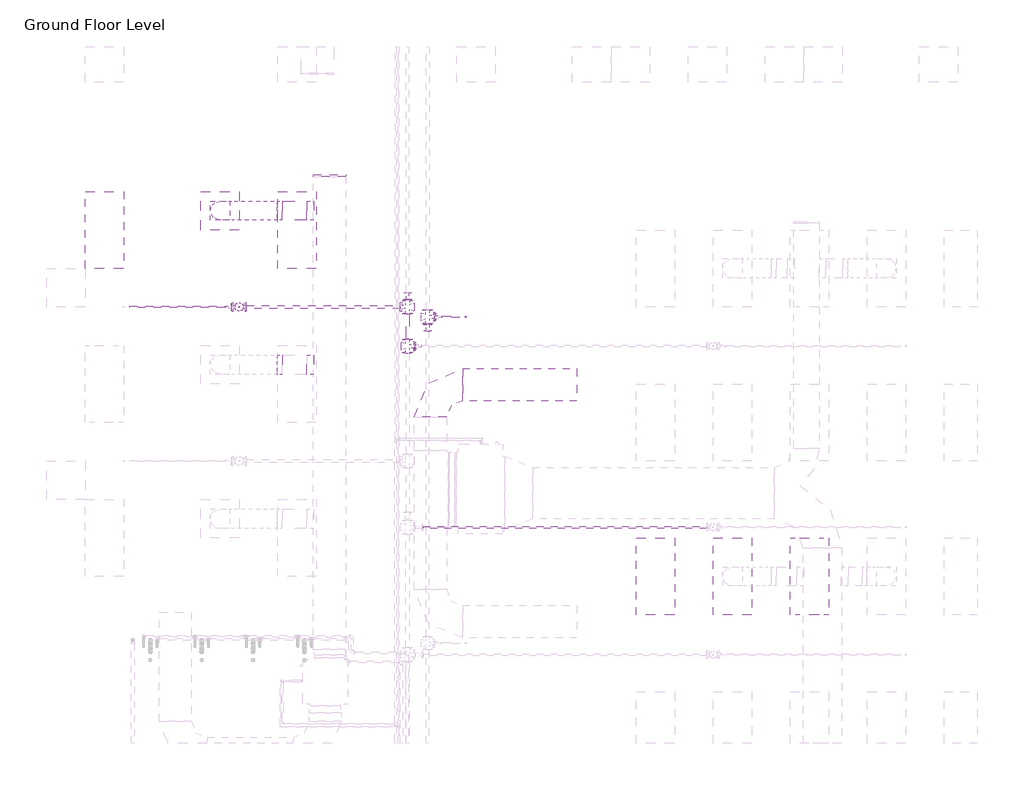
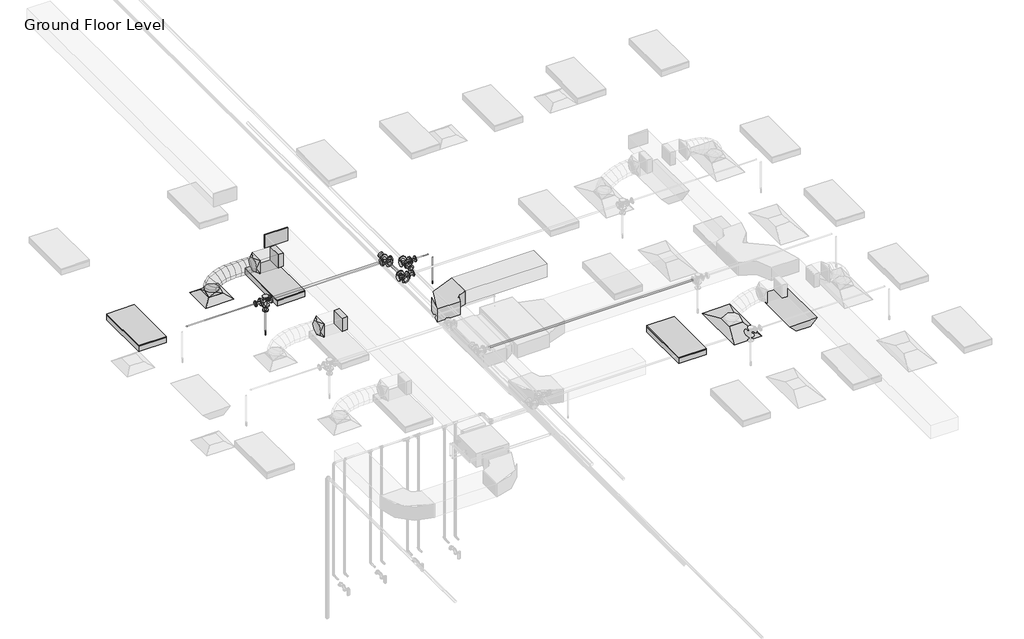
# One storey, part 27 of 75: 10 pipe fittings, 7 duct fittings, 7 pipe segments, 4 light fixtures, 3 duct segments, 2 air terminals, 2 fire suppression terminals.
"""IFC4 building model written with IfcOpenShell, lengths in millimetres."""

from ifc_helpers import new_model, si_unit, point, frame, frame_2d, origin, place, context, project, spatial, polyline, circle_curve, ellipse_curve, trimmed, segment, composite_curve, outline, extrude, transform, mapped, element, save
from ifc_brep_helpers import plane_surface, cylinder_surface, advanced_brep
from components import m_return_diffuser_1200x600_1200_x_600_face_300_x_300_d1983ef6, m_return_diffuser_600_x_600_face_300_x_300_connection_ff221211, m_rectangular_elbow_radius_1_w_abe20169, m_rectangular_endcap_standard_72d4d00d, m_rectangular_takeoff_standard_cb0ccb98, m_rectangular_to_round_transition_angle_45_degree_641efff0, m_sprinkler_dry_pendent_hosted_15_mm_dry_pendent_9bda8e11, m_sprinkler_pendent_15_mm_pendent_06fcbd8e, m_emergency_recessed_lighting_fixture_600x1200_277_5b10b25d, m_troffer_light_parabolic_rectangular1_0600x1200mm_4_lamp_86473d4a, m_reducer_flanged_cs_class_150_standard_83138b42, m_reducer_flanged_cs_class_150_standard_564df86d, m_reducer_flanged_cs_class_150_standard_8338f9e4, m_reducer_flanged_cs_class_150_standard_dc68ad9d, m_tee_round_base_flanged_cs_class_150_standard_ab36f383

model = new_model("IFC4")

# Units and contexts
model_context = context("Model", 3, world=origin())
ifc_project = project(units=[si_unit("LENGTHUNIT", "METRE", prefix="MILLI")], contexts=[model_context])

# Site, building, storey
site = spatial("IfcSite", under=ifc_project)
building = spatial("IfcBuilding", under=site)
storey = spatial("IfcBuildingStorey", under=building, Name="Ground Floor Level", Elevation=900.0)

# Air terminals
placement = place(None, origin())
m_return_diffuser_1200x600_1200_x_600_face_300_x_300_shape = m_return_diffuser_1200x600_1200_x_600_face_300_x_300_d1983ef6(model_context)
element("IfcAirTerminal", 1, ObjectType="M_Supply Diffuser 1200x600 : 1200 x 600 Face 300 x 300 Connection", at=placement, inside=storey, context=model_context, shape_type="MappedRepresentation", body=[
    mapped(m_return_diffuser_1200x600_1200_x_600_face_300_x_300_shape, transform((10743.0482736, -22864.7846466, 3650.0), x_axis=(0.0, 1.0, 0.0), y_axis=(-1.0, 0.0, 0.0), z_axis=(0.0, 0.0, 1.0))),
])
m_return_diffuser_600_x_600_face_300_x_300_connection_shape = m_return_diffuser_600_x_600_face_300_x_300_connection_ff221211(model_context)
element("IfcAirTerminal", 2, ObjectType="M_Supply Diffuser : 600 x 600 Face 300 x 300 Connection", at=placement, inside=storey, context=model_context, shape_type="MappedRepresentation", body=[
    mapped(m_return_diffuser_600_x_600_face_300_x_300_connection_shape, transform((2762.7672395, -17164.7846466, 3650.0), x_axis=(1.0, 0.0, 0.0), y_axis=(0.0, 1.0, 0.0), z_axis=(0.0, 0.0, 1.0))),
])

# Duct fittings
m_rectangular_elbow_radius_1_w_shape = m_rectangular_elbow_radius_1_w_abe20169(model_context)
element("IfcDuctFitting", 3, ObjectType="M_Rectangular Elbow - Radius : 1 W", at=placement, inside=storey, context=model_context, shape_type="MappedRepresentation", body=[
    mapped(m_rectangular_elbow_radius_1_w_shape, transform((6040.9897768, -19877.6206315, 4082.4543707), x_axis=(-1.0, 0.0, 0.0), y_axis=(0.0, -1.0, 0.0), z_axis=(0.0, 0.0, 1.0))),
])
m_rectangular_endcap_standard_shape = m_rectangular_endcap_standard_72d4d00d(model_context)
element("IfcDuctFitting", 4, ObjectType="M_Rectangular Endcap : Standard", at=placement, inside=storey, context=model_context, shape_type="MappedRepresentation", body=[
    mapped(m_rectangular_endcap_standard_shape, transform((4469.1581832, -16631.8627051, 4057.1429453), x_axis=(0.0, 0.999999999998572, -1.6899837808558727e-06), y_axis=(-1.0, 0.0, 0.0), z_axis=(0.0, 1.6899837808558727e-06, 0.999999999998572))),
])
m_rectangular_takeoff_standard_shape = m_rectangular_takeoff_standard_cb0ccb98(model_context)
element("IfcDuctFitting", 5, ObjectType="M_Rectangular Takeoff : Standard", at=placement, inside=storey, context=model_context, shape_type="MappedRepresentation", body=[
    mapped(m_rectangular_takeoff_standard_shape, transform((4219.1581832, -19564.7846466, 4057.1479019), x_axis=(-1.0, 0.0, 0.0), y_axis=(0.0, 1.0, 0.0), z_axis=(0.0, 0.0, -1.0))),
])
element("IfcDuctFitting", 6, ObjectType="M_Rectangular Takeoff : Standard", at=placement, inside=storey, context=model_context, shape_type="MappedRepresentation", body=[
    mapped(m_rectangular_takeoff_standard_shape, transform((4219.1581832, -17164.7846466, 4057.143846), x_axis=(-1.0, 0.0, 0.0), y_axis=(0.0, 1.0, 0.0), z_axis=(0.0, 0.0, -1.0))),
])
m_rectangular_to_round_transition_angle_45_degree_shape = m_rectangular_to_round_transition_angle_45_degree_641efff0(model_context)
element("IfcDuctFitting", 7, ObjectType="M_Rectangular to Round Transition - Angle : 45 Degree", at=placement, inside=storey, context=model_context, shape_type="MappedRepresentation", body=[
    mapped(m_rectangular_to_round_transition_angle_45_degree_shape, transform((2762.7672395, -17164.7846466, 3751.6), x_axis=(0.0, 0.0, 1.0), y_axis=(-1.0, 0.0, 0.0), z_axis=(0.0, -1.0, 0.0))),
])
element("IfcDuctFitting", 8, ObjectType="M_Rectangular to Round Transition - Angle : 45 Degree", at=placement, inside=storey, context=model_context, shape_type="MappedRepresentation", body=[
    mapped(m_rectangular_to_round_transition_angle_45_degree_shape, transform((3732.9593248, -17164.7846466, 4057.143846), x_axis=(-1.0, 0.0, 0.0), y_axis=(0.0, -1.0, 0.0), z_axis=(0.0, 0.0, 1.0))),
])
element("IfcDuctFitting", 9, ObjectType="M_Rectangular to Round Transition - Angle : 45 Degree", at=placement, inside=storey, context=model_context, shape_type="MappedRepresentation", body=[
    mapped(m_rectangular_to_round_transition_angle_45_degree_shape, transform((3732.9552689, -19564.7846466, 4057.1479019), x_axis=(-1.0, 0.0, 0.0), y_axis=(0.0, -1.0, 0.0), z_axis=(0.0, 0.0, 1.0))),
])

# Duct segments
element("IfcDuctSegment", 10, ObjectType="Flex - Round", at=placement, inside=storey, context=model_context, shape_type="AdvancedBrep", body=[
    advanced_brep(
    [(2912.7672395, -17164.7846466, 3826.6), (2762.7672395, -17314.7846466, 3826.6), (2612.7672395, -17164.7846466, 3826.6), (2762.7672395, -17014.7846466, 3826.6), (2912.7672395, -17164.7846466, 3832.8904054), (2762.7672395, -17314.7846466, 3856.84963), (2612.7672395, -17164.7846466, 3880.8088546), (2762.7672395, -17014.7846466, 3856.84963), (2914.0857611, -17164.7846466, 3836.9124951), (2779.5129985, -17314.7846466, 3907.9318018), (2644.940236, -17164.7846466, 3978.9511085), (2779.5129985, -17014.7846466, 3907.9318018), (2928.1333628, -17164.7846466, 3855.2232955), (2826.2863476, -17314.7846466, 3968.9000352), (2724.4393324, -17164.7846466, 4082.5767748), (2826.2863476, -17014.7846466, 3968.9000352), (2960.0749195, -17164.7846466, 3874.5762626), (2897.8913945, -17314.7846466, 4012.2845867), (2835.7078695, -17164.7846466, 4149.9929109), (2897.8913945, -17014.7846466, 4012.2845867), (3023.3474104, -17164.7846466, 3894.3960649), (2989.1322471, -17314.7846466, 4040.8653433), (2954.9170839, -17164.7846466, 4187.3346218), (2989.1322471, -17014.7846466, 4040.8653433), (3111.2188579, -17164.7846466, 3908.1627538), (3094.8130134, -17314.7846466, 4057.4221917), (3078.407169, -17164.7846466, 4206.6816296), (3094.8130134, -17014.7846466, 4057.4221917), (3215.0397402, -17164.7846466, 3914.7690234), (3209.7378012, -17314.7846466, 4064.7350186), (3204.4358622, -17164.7846466, 4214.7010137), (3209.7378012, -17014.7846466, 4064.7350186), (3327.4409955, -17164.7846466, 3915.5708367), (3328.7107184, -17314.7846466, 4065.5837107), (3329.9804412, -17164.7846466, 4215.5965847), (3328.7107184, -17014.7846466, 4065.5837107), (3442.2167216, -17164.7846466, 3912.8086677), (3446.5358728, -17314.7846466, 4062.7481548), (3450.855024, -17164.7846466, 4212.6876419), (3446.5358728, -17014.7846466, 4062.7481548), (3554.063392, -17164.7846466, 3909.0565), (3558.0173723, -17314.7846466, 4059.0082376), (3561.9713526, -17164.7846466, 4208.9599753), (3558.0173723, -17014.7846466, 4059.0082376), (3657.9593248, -17164.7846466, 3907.143846), (3657.9593248, -17014.7846466, 4057.143846), (3657.9593248, -17164.7846466, 4207.143846), (3657.9593248, -17314.7846466, 4057.143846), (3653.7223326, -17164.7846466, 3907.143846), (3655.1615998, -17314.7846466, 4057.143846), (3656.600867, -17164.7846466, 4207.143846), (3655.1615998, -17014.7846466, 4057.143846)],
    [
        (0, 1, circle_curve(frame((2762.7672395, -17164.7846466, 3826.6), z_axis=(0.0, 0.0, -1.0), x_axis=(1.0, 0.0, 0.0)), 150.0)),
        (1, 2, circle_curve(frame((2762.7672395, -17164.7846466, 3826.6), z_axis=(0.0, 0.0, -1.0), x_axis=(1.0, 0.0, 0.0)), 150.0)),
        (2, 3, circle_curve(frame((2762.7672395, -17164.7846466, 3826.6), z_axis=(0.0, 0.0, -1.0), x_axis=(1.0, 0.0, 0.0)), 150.0)),
        (3, 0, circle_curve(frame((2762.7672395, -17164.7846466, 3826.6), z_axis=(0.0, 0.0, -1.0), x_axis=(1.0, 0.0, 0.0)), 150.0)),
        (0, 4),
        (4, 5, ellipse_curve(frame((2762.7672395, -17164.7846466, 3856.84963), z_axis=(-0.1577287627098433, 0.0, -0.9874824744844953), x_axis=(0.9874824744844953, 0.0, -0.15772876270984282)), 151.90143, 150.0)),
        (5, 1),
        (5, 6, ellipse_curve(frame((2762.7672395, -17164.7846466, 3856.84963), z_axis=(-0.1577287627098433, 0.0, -0.9874824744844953), x_axis=(0.9874824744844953, 0.0, -0.15772876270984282)), 151.90143, 150.0)),
        (6, 2),
        (6, 7, ellipse_curve(frame((2762.7672395, -17164.7846466, 3856.84963), z_axis=(-0.1577287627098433, 0.0, -0.9874824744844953), x_axis=(0.9874824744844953, 0.0, -0.15772876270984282)), 151.90143, 150.0)),
        (7, 3),
        (7, 4, ellipse_curve(frame((2762.7672395, -17164.7846466, 3856.84963), z_axis=(-0.1577287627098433, 0.0, -0.9874824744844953), x_axis=(0.9874824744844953, 0.0, -0.15772876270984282)), 151.90143, 150.0)),
        (4, 8),
        (8, 9, ellipse_curve(frame((2779.5129985, -17164.7846466, 3907.9318018), z_axis=(-0.4667318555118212, 0.0, -0.8843988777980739), x_axis=(0.8843988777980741, 0.0, -0.4667318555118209)), 152.162973, 150.0)),
        (9, 5),
        (9, 10, ellipse_curve(frame((2779.5129985, -17164.7846466, 3907.9318018), z_axis=(-0.4667318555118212, 0.0, -0.8843988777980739), x_axis=(0.8843988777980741, 0.0, -0.4667318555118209)), 152.162973, 150.0)),
        (10, 6),
        (10, 11, ellipse_curve(frame((2779.5129985, -17164.7846466, 3907.9318018), z_axis=(-0.4667318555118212, 0.0, -0.8843988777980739), x_axis=(0.8843988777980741, 0.0, -0.4667318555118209)), 152.162973, 150.0)),
        (11, 7),
        (11, 8, ellipse_curve(frame((2779.5129985, -17164.7846466, 3907.9318018), z_axis=(-0.4667318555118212, 0.0, -0.8843988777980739), x_axis=(0.8843988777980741, 0.0, -0.4667318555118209)), 152.162973, 150.0)),
        (8, 12),
        (12, 13, ellipse_curve(frame((2826.2863476, -17164.7846466, 3968.9000352), z_axis=(-0.7447975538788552, 0.0, -0.6672904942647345), x_axis=(0.667290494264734, 0.0, -0.7447975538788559)), 152.6277027, 150.0)),
        (13, 9),
        (13, 14, ellipse_curve(frame((2826.2863476, -17164.7846466, 3968.9000352), z_axis=(-0.7447975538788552, 0.0, -0.6672904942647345), x_axis=(0.667290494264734, 0.0, -0.7447975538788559)), 152.6277027, 150.0)),
        (14, 10),
        (14, 15, ellipse_curve(frame((2826.2863476, -17164.7846466, 3968.9000352), z_axis=(-0.7447975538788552, 0.0, -0.6672904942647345), x_axis=(0.667290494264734, 0.0, -0.7447975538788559)), 152.6277027, 150.0)),
        (15, 11),
        (15, 12, ellipse_curve(frame((2826.2863476, -17164.7846466, 3968.9000352), z_axis=(-0.7447975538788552, 0.0, -0.6672904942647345), x_axis=(0.667290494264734, 0.0, -0.7447975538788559)), 152.6277027, 150.0)),
        (12, 16),
        (16, 17, ellipse_curve(frame((2897.8913945, -17164.7846466, 4012.2845867), z_axis=(-0.9113887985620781, 0.0, -0.41154642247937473), x_axis=(0.41154642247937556, 0.0, -0.9113887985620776)), 151.0972314, 150.0)),
        (17, 13),
        (17, 18, ellipse_curve(frame((2897.8913945, -17164.7846466, 4012.2845867), z_axis=(-0.9113887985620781, 0.0, -0.41154642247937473), x_axis=(0.41154642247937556, 0.0, -0.9113887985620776)), 151.0972314, 150.0)),
        (18, 14),
        (18, 19, ellipse_curve(frame((2897.8913945, -17164.7846466, 4012.2845867), z_axis=(-0.9113887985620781, 0.0, -0.41154642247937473), x_axis=(0.41154642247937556, 0.0, -0.9113887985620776)), 151.0972314, 150.0)),
        (19, 15),
        (19, 16, ellipse_curve(frame((2897.8913945, -17164.7846466, 4012.2845867), z_axis=(-0.9113887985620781, 0.0, -0.41154642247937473), x_axis=(0.41154642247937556, 0.0, -0.9113887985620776)), 151.0972314, 150.0)),
        (16, 20),
        (20, 21, ellipse_curve(frame((2989.1322471, -17164.7846466, 4040.8653433), z_axis=(-0.9737838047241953, 0.0, -0.2274754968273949), x_axis=(0.22747549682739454, 0.0, -0.9737838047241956)), 150.4125225, 150.0)),
        (21, 17),
        (21, 22, ellipse_curve(frame((2989.1322471, -17164.7846466, 4040.8653433), z_axis=(-0.9737838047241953, 0.0, -0.2274754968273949), x_axis=(0.22747549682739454, 0.0, -0.9737838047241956)), 150.4125225, 150.0)),
        (22, 18),
        (22, 23, ellipse_curve(frame((2989.1322471, -17164.7846466, 4040.8653433), z_axis=(-0.9737838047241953, 0.0, -0.2274754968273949), x_axis=(0.22747549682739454, 0.0, -0.9737838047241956)), 150.4125225, 150.0)),
        (23, 19),
        (23, 20, ellipse_curve(frame((2989.1322471, -17164.7846466, 4040.8653433), z_axis=(-0.9737838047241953, 0.0, -0.2274754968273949), x_axis=(0.22747549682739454, 0.0, -0.9737838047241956)), 150.4125225, 150.0)),
        (20, 24),
        (24, 25, ellipse_curve(frame((3094.8130134, -17164.7846466, 4057.4221917), z_axis=(-0.9940135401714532, 0.0, -0.10925695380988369), x_axis=(0.1092569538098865, 0.0, -0.9940135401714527)), 150.1583549, 150.0)),
        (25, 21),
        (25, 26, ellipse_curve(frame((3094.8130134, -17164.7846466, 4057.4221917), z_axis=(-0.9940135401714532, 0.0, -0.10925695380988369), x_axis=(0.1092569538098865, 0.0, -0.9940135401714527)), 150.1583549, 150.0)),
        (26, 22),
        (26, 27, ellipse_curve(frame((3094.8130134, -17164.7846466, 4057.4221917), z_axis=(-0.9940135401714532, 0.0, -0.10925695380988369), x_axis=(0.1092569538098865, 0.0, -0.9940135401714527)), 150.1583549, 150.0)),
        (27, 23),
        (27, 24, ellipse_curve(frame((3094.8130134, -17164.7846466, 4057.4221917), z_axis=(-0.9940135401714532, 0.0, -0.10925695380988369), x_axis=(0.1092569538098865, 0.0, -0.9940135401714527)), 150.1583549, 150.0)),
        (24, 28),
        (28, 29, ellipse_curve(frame((3209.7378012, -17164.7846466, 4064.7350186), z_axis=(-0.999375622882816, 0.0, -0.035332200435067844), x_axis=(0.035332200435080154, 0.0, -0.9993756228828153)), 150.059689, 150.0)),
        (29, 25),
        (29, 30, ellipse_curve(frame((3209.7378012, -17164.7846466, 4064.7350186), z_axis=(-0.999375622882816, 0.0, -0.035332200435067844), x_axis=(0.035332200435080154, 0.0, -0.9993756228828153)), 150.059689, 150.0)),
        (30, 26),
        (30, 31, ellipse_curve(frame((3209.7378012, -17164.7846466, 4064.7350186), z_axis=(-0.999375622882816, 0.0, -0.035332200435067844), x_axis=(0.035332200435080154, 0.0, -0.9993756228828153)), 150.059689, 150.0)),
        (31, 27),
        (31, 28, ellipse_curve(frame((3209.7378012, -17164.7846466, 4064.7350186), z_axis=(-0.999375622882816, 0.0, -0.035332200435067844), x_axis=(0.035332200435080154, 0.0, -0.9993756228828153)), 150.059689, 150.0)),
        (28, 32),
        (32, 33, ellipse_curve(frame((3328.7107184, -17164.7846466, 4065.5837107), z_axis=(-0.9999641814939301, 0.0, 0.008463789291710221), x_axis=(-0.00846378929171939, 0.0, -0.9999641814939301)), 150.0182474, 150.0)),
        (33, 29),
        (33, 34, ellipse_curve(frame((3328.7107184, -17164.7846466, 4065.5837107), z_axis=(-0.9999641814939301, 0.0, 0.008463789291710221), x_axis=(-0.00846378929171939, 0.0, -0.9999641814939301)), 150.0182474, 150.0)),
        (34, 30),
        (34, 35, ellipse_curve(frame((3328.7107184, -17164.7846466, 4065.5837107), z_axis=(-0.9999641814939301, 0.0, 0.008463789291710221), x_axis=(-0.00846378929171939, 0.0, -0.9999641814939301)), 150.0182474, 150.0)),
        (35, 31),
        (35, 32, ellipse_curve(frame((3328.7107184, -17164.7846466, 4065.5837107), z_axis=(-0.9999641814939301, 0.0, 0.008463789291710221), x_axis=(-0.00846378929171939, 0.0, -0.9999641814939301)), 150.0182474, 150.0)),
        (32, 36),
        (36, 37, ellipse_curve(frame((3446.5358728, -17164.7846466, 4062.7481548), z_axis=(-0.9995853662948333, 0.0, 0.02879401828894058), x_axis=(-0.028794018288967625, -3.989114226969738e-12, -0.9995853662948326)), 150.0016828, 150.0)),
        (37, 33),
        (37, 38, ellipse_curve(frame((3446.5358728, -17164.7846466, 4062.7481548), z_axis=(-0.9995853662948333, 0.0, 0.02879401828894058), x_axis=(-0.028794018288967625, -3.989114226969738e-12, -0.9995853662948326)), 150.0016828, 150.0)),
        (38, 34),
        (38, 39, ellipse_curve(frame((3446.5358728, -17164.7846466, 4062.7481548), z_axis=(-0.9995853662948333, 0.0, 0.02879401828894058), x_axis=(-0.028794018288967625, -3.989114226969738e-12, -0.9995853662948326)), 150.0016828, 150.0)),
        (39, 35),
        (39, 36, ellipse_curve(frame((3446.5358728, -17164.7846466, 4062.7481548), z_axis=(-0.9995853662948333, 0.0, 0.02879401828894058), x_axis=(-0.028794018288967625, -3.989114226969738e-12, -0.9995853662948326)), 150.0016828, 150.0)),
        (36, 40),
        (40, 41, ellipse_curve(frame((3558.0173723, -17164.7846466, 4059.0082376), z_axis=(-0.9996525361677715, 0.0, 0.026359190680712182), x_axis=(0.026359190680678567, 1.3534899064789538e-12, 0.9996525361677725)), 150.0038586, 150.0)),
        (41, 37),
        (41, 42, ellipse_curve(frame((3558.0173723, -17164.7846466, 4059.0082376), z_axis=(-0.9996525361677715, 0.0, 0.026359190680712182), x_axis=(0.026359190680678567, 1.3534899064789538e-12, 0.9996525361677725)), 150.0038586, 150.0)),
        (42, 38),
        (42, 43, ellipse_curve(frame((3558.0173723, -17164.7846466, 4059.0082376), z_axis=(-0.9996525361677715, 0.0, 0.026359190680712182), x_axis=(0.026359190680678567, 1.3534899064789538e-12, 0.9996525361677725)), 150.0038586, 150.0)),
        (43, 39),
        (43, 40, ellipse_curve(frame((3558.0173723, -17164.7846466, 4059.0082376), z_axis=(-0.9996525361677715, 0.0, 0.026359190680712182), x_axis=(0.026359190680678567, 1.3534899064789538e-12, 0.9996525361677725)), 150.0038586, 150.0)),
        (44, 45, circle_curve(frame((3657.9593248, -17164.7846466, 4057.143846), z_axis=(1.0, 0.0, 0.0), x_axis=(0.0, 0.0, -1.0)), 150.0)),
        (45, 46, circle_curve(frame((3657.9593248, -17164.7846466, 4057.143846), z_axis=(1.0, 0.0, 0.0), x_axis=(0.0, 0.0, -1.0)), 150.0)),
        (46, 47, circle_curve(frame((3657.9593248, -17164.7846466, 4057.143846), z_axis=(1.0, 0.0, 0.0), x_axis=(0.0, 0.0, -1.0)), 150.0)),
        (47, 44, circle_curve(frame((3657.9593248, -17164.7846466, 4057.143846), z_axis=(1.0, 0.0, 0.0), x_axis=(0.0, 0.0, -1.0)), 150.0)),
        (40, 48),
        (48, 49, ellipse_curve(frame((3655.1615998, -17164.7846466, 4057.143846), z_axis=(-0.999953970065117, 0.0, 0.009594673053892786), x_axis=(0.00959467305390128, 0.0, 0.999953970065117)), 150.0069048, 150.0)),
        (49, 41),
        (49, 50, ellipse_curve(frame((3655.1615998, -17164.7846466, 4057.143846), z_axis=(-0.999953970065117, 0.0, 0.009594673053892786), x_axis=(0.00959467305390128, 0.0, 0.999953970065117)), 150.0069048, 150.0)),
        (50, 42),
        (50, 51, ellipse_curve(frame((3655.1615998, -17164.7846466, 4057.143846), z_axis=(-0.999953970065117, 0.0, 0.009594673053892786), x_axis=(0.00959467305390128, 0.0, 0.999953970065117)), 150.0069048, 150.0)),
        (51, 43),
        (51, 48, ellipse_curve(frame((3655.1615998, -17164.7846466, 4057.143846), z_axis=(-0.999953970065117, 0.0, 0.009594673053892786), x_axis=(0.00959467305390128, 0.0, 0.999953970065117)), 150.0069048, 150.0)),
        (48, 44),
        (47, 49),
        (46, 50),
        (45, 51),
    ],
    [
        plane_surface(frame((2762.7672395, -17314.7846466, 3826.6), z_axis=(0.0, 0.0, -1.0), x_axis=(1.0, 0.0, 0.0))),
        cylinder_surface(frame((2762.7672395, -17164.7846466, 3826.6), z_axis=(0.0, 0.0, -1.0), x_axis=(1.0, 0.0, 0.0)), 150.0),
        cylinder_surface(frame((2762.7672395, -17164.7846466, 3856.84963), z_axis=(-0.3115087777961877, 0.0, -0.9502432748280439), x_axis=(0.9502432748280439, 0.0, -0.3115087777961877)), 150.0),
        cylinder_surface(frame((2779.5129985, -17164.7846466, 3907.9318018), z_axis=(-0.6086858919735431, 0.0, -0.7934112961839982), x_axis=(0.7934112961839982, 0.0, -0.6086858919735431)), 150.0),
        cylinder_surface(frame((2826.2863476, -17164.7846466, 3968.9000352), z_axis=(-0.8552637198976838, 0.0, -0.5181929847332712), x_axis=(0.5181929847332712, 0.0, -0.8552637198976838)), 150.0),
        cylinder_surface(frame((2897.8913945, -17164.7846466, 4012.2845867), z_axis=(-0.9542773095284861, 0.0, -0.2989227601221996), x_axis=(0.2989227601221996, 0.0, -0.9542773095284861)), 150.0),
        cylinder_surface(frame((2989.1322471, -17164.7846466, 4040.8653433), z_axis=(-0.9879488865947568, 0.0, -0.15478048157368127), x_axis=(0.15478048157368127, 0.0, -0.9879488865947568)), 150.0),
        cylinder_surface(frame((3094.8130134, -17164.7846466, 4057.4221917), z_axis=(-0.9979816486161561, 0.0, -0.06350298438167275), x_axis=(0.06350298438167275, 0.0, -0.9979816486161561)), 150.0),
        cylinder_surface(frame((3209.7378012, -17164.7846466, 4064.7350186), z_axis=(-0.9999745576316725, 0.0, -0.007133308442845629), x_axis=(0.007133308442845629, 0.0, -0.9999745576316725)), 150.0),
        cylinder_surface(frame((3328.7107184, -17164.7846466, 4065.5837107), z_axis=(-0.9997105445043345, 0.0, 0.024058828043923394), x_axis=(-0.024058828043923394, 0.0, -0.9997105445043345)), 150.0),
        cylinder_surface(frame((3446.5358728, -17164.7846466, 4062.7481548), z_axis=(-0.9994377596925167, 0.0, 0.03352856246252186), x_axis=(-0.03352856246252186, 0.0, -0.9994377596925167)), 150.0),
        plane_surface(frame((3657.9593248, -17164.7846466, 3907.143846), z_axis=(1.0, 0.0, 0.0), x_axis=(0.0, 1.0, 0.0))),
        cylinder_surface(frame((3558.0173723, -17164.7846466, 4059.0082376), z_axis=(-0.9998158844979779, 0.0, 0.019188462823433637), x_axis=(-0.019188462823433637, 0.0, -0.9998158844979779)), 150.0),
        cylinder_surface(frame((3655.1615998, -17164.7846466, 4057.143846), z_axis=(-1.0, 0.0, 0.0), x_axis=(0.0, 0.0, -1.0)), 150.0),
    ],
    [
        (0, [[1, 2, 3, 4]]),
        (1, [[-1, 5, 6, 7]]),
        (1, [[-2, -7, 8, 9]]),
        (1, [[-3, -9, 10, 11]]),
        (1, [[-4, -11, 12, -5]]),
        (2, [[-6, 13, 14, 15]]),
        (2, [[-8, -15, 16, 17]]),
        (2, [[-10, -17, 18, 19]]),
        (2, [[-12, -19, 20, -13]]),
        (3, [[-14, 21, 22, 23]]),
        (3, [[-16, -23, 24, 25]]),
        (3, [[-18, -25, 26, 27]]),
        (3, [[-20, -27, 28, -21]]),
        (4, [[-22, 29, 30, 31]]),
        (4, [[-24, -31, 32, 33]]),
        (4, [[-26, -33, 34, 35]]),
        (4, [[-28, -35, 36, -29]]),
        (5, [[-30, 37, 38, 39]]),
        (5, [[-32, -39, 40, 41]]),
        (5, [[-34, -41, 42, 43]]),
        (5, [[-36, -43, 44, -37]]),
        (6, [[-38, 45, 46, 47]]),
        (6, [[-40, -47, 48, 49]]),
        (6, [[-42, -49, 50, 51]]),
        (6, [[-44, -51, 52, -45]]),
        (7, [[-46, 53, 54, 55]]),
        (7, [[-48, -55, 56, 57]]),
        (7, [[-50, -57, 58, 59]]),
        (7, [[-52, -59, 60, -53]]),
        (8, [[-54, 61, 62, 63]]),
        (8, [[-56, -63, 64, 65]]),
        (8, [[-58, -65, 66, 67]]),
        (8, [[-60, -67, 68, -61]]),
        (9, [[-62, 69, 70, 71]]),
        (9, [[-64, -71, 72, 73]]),
        (9, [[-66, -73, 74, 75]]),
        (9, [[-68, -75, 76, -69]]),
        (10, [[-70, 77, 78, 79]]),
        (10, [[-72, -79, 80, 81]]),
        (10, [[-74, -81, 82, 83]]),
        (10, [[-76, -83, 84, -77]]),
        (11, [[85, 86, 87, 88]]),
        (12, [[-78, 89, 90, 91]]),
        (12, [[-80, -91, 92, 93]]),
        (12, [[-82, -93, 94, 95]]),
        (12, [[-84, -95, 96, -89]]),
        (13, [[-90, 97, -88, 98]]),
        (13, [[-92, -98, -87, 99]]),
        (13, [[-94, -99, -86, 100]]),
        (13, [[-96, -100, -85, -97]]),
    ],
),
])
element("IfcDuctSegment", 11, ObjectType="Radius Elbows / Taps", at=placement, inside=storey, context=model_context, shape_type="SweptSolid", body=[
    extrude(outline(polyline([(6540.9897768, -20127.6206315), (6540.9897768, -19627.6206315), (8320.9897766, -19627.6206315), (8320.9897766, -20127.6206315), (6540.9897768, -20127.6206315)])), frame((0.0, 0.0, 3932.4543707), z_axis=(0.0, 0.0, 1.0), x_axis=(1.0, 0.0, 0.0)), (0.0, 0.0, 1.0), 300.0),
])
element("IfcDuctSegment", 12, ObjectType="Radius Elbows / Taps", at=placement, inside=storey, context=model_context, shape_type="SweptSolid", body=[
    extrude(outline(polyline([(4117.5581832, -17014.7846466), (4117.5581832, -17314.7846466), (3732.9593248, -17314.7846466), (3732.9593248, -17014.7846466), (4117.5581832, -17014.7846466)])), frame((0.0, 0.0, 3907.143846), z_axis=(0.0, 0.0, 1.0), x_axis=(1.0, 0.0, 0.0)), (0.0, 0.0, 1.0), 300.0),
])

# Fire suppression terminals
m_sprinkler_dry_pendent_hosted_15_mm_dry_pendent_shape = m_sprinkler_dry_pendent_hosted_15_mm_dry_pendent_9bda8e11(model_context)
element("IfcFireSuppressionTerminal", 13, ObjectType="M_Sprinkler - Dry - Pendent - Hosted : 15 mm Dry Pendent", at=placement, inside=storey, context=model_context, shape_type="MappedRepresentation", body=[
    mapped(m_sprinkler_dry_pendent_hosted_15_mm_dry_pendent_shape, transform((3062.7672395, -18664.7846466, 3650.0), x_axis=(1.0, 0.0, 0.0), y_axis=(0.0, -1.0, 0.0), z_axis=(0.0, 0.0, -1.0))),
])
m_sprinkler_pendent_15_mm_pendent_shape = m_sprinkler_pendent_15_mm_pendent_06fcbd8e(model_context)
element("IfcFireSuppressionTerminal", 14, ObjectType="M_Sprinkler - Pendent : 15 mm Pendent", at=placement, inside=storey, context=model_context, shape_type="MappedRepresentation", body=[
    mapped(m_sprinkler_pendent_15_mm_pendent_shape, transform((6592.5481019, -18818.869914, 3650.0), x_axis=(1.0, 0.0, 0.0), y_axis=(0.0, 1.0, 0.0), z_axis=(0.0, 0.0, 1.0))),
])

# Light fixtures
m_emergency_recessed_lighting_fixture_600x1200_277_shape = m_emergency_recessed_lighting_fixture_600x1200_277_5b10b25d(model_context)
element("IfcLightFixture", 15, ObjectType="M_Emergency Recessed Lighting Fixture : 600x1200 - 277", at=placement, inside=storey, context=model_context, shape_type="MappedRepresentation", body=[
    mapped(m_emergency_recessed_lighting_fixture_600x1200_277_shape, transform((11643.0482736, -23464.7846466, 3650.0), x_axis=(0.0, 1.0, 0.0), y_axis=(-1.0, 0.0, 0.0), z_axis=(0.0, 0.0, 1.0))),
])
m_troffer_light_parabolic_rectangular1_0600x1200mm_4_lamp_shape = m_troffer_light_parabolic_rectangular1_0600x1200mm_4_lamp_86473d4a(model_context)
element("IfcLightFixture", 16, ObjectType="M_Troffer Light - Parabolic Rectangular1 : 0600x1200mm(4 Lamp) - 277V 2", at=placement, inside=storey, context=model_context, shape_type="MappedRepresentation", body=[
    mapped(m_troffer_light_parabolic_rectangular1_0600x1200mm_4_lamp_shape, transform((903.3013074, -17446.081145, 3650.0), x_axis=(0.0, 1.0, 0.0), y_axis=(-1.0, 0.0, 0.0), z_axis=(0.0, 0.0, 1.0))),
])
element("IfcLightFixture", 17, ObjectType="M_Troffer Light - Parabolic Rectangular1 : 0600x1200mm(4 Lamp) - 277V 2", at=placement, inside=storey, context=model_context, shape_type="MappedRepresentation", body=[
    mapped(m_troffer_light_parabolic_rectangular1_0600x1200mm_4_lamp_shape, transform((3903.3013074, -17446.081145, 3650.0), x_axis=(0.0, 1.0, 0.0), y_axis=(-1.0, 0.0, 0.0), z_axis=(0.0, 0.0, 1.0))),
])
element("IfcLightFixture", 18, ObjectType="M_Troffer Light - Parabolic Rectangular1 : 0600x1200mm(4 Lamp) - 277V 2", at=placement, inside=storey, context=model_context, shape_type="MappedRepresentation", body=[
    mapped(m_troffer_light_parabolic_rectangular1_0600x1200mm_4_lamp_shape, transform((9483.5823415, -22846.081145, 3650.0), x_axis=(0.0, 1.0, 0.0), y_axis=(-1.0, 0.0, 0.0), z_axis=(0.0, 0.0, 1.0))),
])

# Pipe fittings
m_reducer_flanged_cs_class_150_standard_shape = m_reducer_flanged_cs_class_150_standard_83138b42(model_context)
element("IfcPipeFitting", 19, ObjectType="M_Reducer - Flanged - CS - Class 150 : Standard", at=placement, inside=storey, context=model_context, shape_type="MappedRepresentation", body=[
    mapped(m_reducer_flanged_cs_class_150_standard_shape, transform((6109.3164057, -18818.869914, 4291.2754753), x_axis=(1.0, 0.0, 0.0), y_axis=(0.0, 0.0, -1.0), z_axis=(0.0, 1.0, 0.0))),
])
m_reducer_flanged_cs_class_150_standard_2_shape = m_reducer_flanged_cs_class_150_standard_564df86d(model_context)
element("IfcPipeFitting", 20, ObjectType="M_Reducer - Flanged - CS - Class 150 : Standard", at=placement, inside=storey, context=model_context, shape_type="MappedRepresentation", body=[
    mapped(m_reducer_flanged_cs_class_150_standard_2_shape, transform((5997.057812, -18931.1285077, 4291.0943441), x_axis=(0.0, -1.0, 0.0), y_axis=(1.0, 0.0, 0.0), z_axis=(0.0, 0.0, 1.0))),
])
element("IfcPipeFitting", 21, ObjectType="M_Reducer - Flanged - CS - Class 150 : Standard", at=placement, inside=storey, context=model_context, shape_type="MappedRepresentation", body=[
    mapped(m_reducer_flanged_cs_class_150_standard_2_shape, transform((5684.6174894, -18552.5260529, 4347.5), x_axis=(0.0, 1.0, 0.0), y_axis=(-1.0, 0.0, 0.0), z_axis=(0.0, 0.0, 1.0))),
])
m_reducer_flanged_cs_class_150_standard_3_shape = m_reducer_flanged_cs_class_150_standard_8338f9e4(model_context)
element("IfcPipeFitting", 22, ObjectType="M_Reducer - Flanged - CS - Class 150 : Standard", at=placement, inside=storey, context=model_context, shape_type="MappedRepresentation", body=[
    mapped(m_reducer_flanged_cs_class_150_standard_3_shape, transform((5796.8760832, -19275.8856124, 4347.5), x_axis=(1.0, 0.0, 0.0), y_axis=(0.0, 0.0, 1.0), z_axis=(0.0, -1.0, 0.0))),
])
m_reducer_flanged_cs_class_150_standard_4_shape = m_reducer_flanged_cs_class_150_standard_dc68ad9d(model_context)
element("IfcPipeFitting", 23, ObjectType="M_Reducer - Flanged - CS - Class 150 : Standard", at=placement, inside=storey, context=model_context, shape_type="MappedRepresentation", body=[
    mapped(m_reducer_flanged_cs_class_150_standard_4_shape, transform((2950.5086457, -18664.7846466, 4347.5), x_axis=(-1.0, 0.0, 0.0), y_axis=(0.0, 0.0, 1.0), z_axis=(0.0, 1.0, 0.0))),
])
element("IfcPipeFitting", 24, ObjectType="M_Reducer - Flanged - CS - Class 150 : Standard", at=placement, inside=storey, context=model_context, shape_type="MappedRepresentation", body=[
    mapped(m_reducer_flanged_cs_class_150_standard_4_shape, transform((3062.7672395, -18664.7846466, 4235.2414062), x_axis=(0.0, 0.0, -1.0), y_axis=(-1.0, 0.0, 0.0), z_axis=(0.0, 1.0, 0.0))),
])
m_tee_round_base_flanged_cs_class_150_standard_shape = m_tee_round_base_flanged_cs_class_150_standard_ab36f383(model_context)
element("IfcPipeFitting", 25, ObjectType="M_Tee Round Base - Flanged - CS - Class 150 : Standard", at=placement, inside=storey, context=model_context, shape_type="MappedRepresentation", body=[
    mapped(m_tee_round_base_flanged_cs_class_150_standard_shape, transform((5997.057812, -18818.869914, 4291.0943441), x_axis=(0.0, 1.0, 0.0), y_axis=(-1.0, 0.0, 0.0), z_axis=(0.0, 0.0, 1.0))),
])
element("IfcPipeFitting", 26, ObjectType="M_Tee Round Base - Flanged - CS - Class 150 : Standard", at=placement, inside=storey, context=model_context, shape_type="MappedRepresentation", body=[
    mapped(m_tee_round_base_flanged_cs_class_150_standard_shape, transform((5684.6174894, -19275.8856124, 4347.5), x_axis=(0.0, -1.0, 0.0), y_axis=(-1.0, 0.0, 0.0), z_axis=(0.0, 0.0, -1.0))),
])
element("IfcPipeFitting", 27, ObjectType="M_Tee Round Base - Flanged - CS - Class 150 : Standard", at=placement, inside=storey, context=model_context, shape_type="MappedRepresentation", body=[
    mapped(m_tee_round_base_flanged_cs_class_150_standard_shape, transform((5684.6174894, -18664.7846466, 4347.5), x_axis=(0.0, -1.0, 0.0), y_axis=(1.0, 0.0, 0.0), z_axis=(0.0, 0.0, 1.0))),
])
element("IfcPipeFitting", 28, ObjectType="M_Tee Round Base - Flanged - CS - Class 150 : Standard", at=placement, inside=storey, context=model_context, shape_type="MappedRepresentation", body=[
    mapped(m_tee_round_base_flanged_cs_class_150_standard_shape, transform((3062.7672395, -18664.7846466, 4347.5), x_axis=(-1.0, 0.0, 0.0), y_axis=(0.0, 0.0, 1.0), z_axis=(0.0, 1.0, 0.0))),
])

# Pipe segments
element("IfcPipeSegment", 29, ObjectType="Steel flanged", at=placement, inside=storey, context=model_context, shape_type="SweptSolid", body=[
    extrude(outline(composite_curve([segment(trimmed(circle_curve(frame_2d((6592.5481019, -18818.869914)), 10.668), [point((6581.8801019, -18818.869914))], [point((6592.5481019, -18808.201914))], False, "CARTESIAN"), True, "CONTINUOUS"), segment(trimmed(circle_curve(frame_2d((6592.5481019, -18818.869914)), 10.668), [point((6592.5481019, -18808.201914))], [point((6603.2161019, -18818.869914))], False, "CARTESIAN"), True, "CONTINUOUS"), segment(trimmed(circle_curve(frame_2d((6592.5481019, -18818.869914)), 10.668), [point((6603.2161019, -18818.869914))], [point((6592.5481019, -18829.537914))], False, "CARTESIAN"), True, "CONTINUOUS"), segment(trimmed(circle_curve(frame_2d((6592.5481019, -18818.869914)), 10.668), [point((6592.5481019, -18829.537914))], [point((6581.8801019, -18818.869914))], False, "CARTESIAN"), True, "CONTINUOUS")], self_intersect=False)), frame((0.0, 0.0, 3650.0), z_axis=(0.0, 0.0, 1.0), x_axis=(1.0, 0.0, 0.0)), (0.0, 0.0, 1.0), 548.2668816),
])
element("IfcPipeSegment", 30, ObjectType="Steel flanged", at=placement, inside=storey, context=model_context, shape_type="SweptSolid", body=[
    extrude(outline(composite_curve([segment(trimmed(circle_curve(frame_2d((-18818.869914, 4291.2754753)), 10.668), [point((-18808.201914, 4291.2754753))], [point((-18818.869914, 4280.6074753))], False, "CARTESIAN"), True, "CONTINUOUS"), segment(trimmed(circle_curve(frame_2d((-18818.869914, 4291.2754753)), 10.668), [point((-18818.869914, 4280.6074753))], [point((-18829.537914, 4291.2754753))], False, "CARTESIAN"), True, "CONTINUOUS"), segment(trimmed(circle_curve(frame_2d((-18818.869914, 4291.2754753)), 10.668), [point((-18829.537914, 4291.2754753))], [point((-18818.869914, 4301.9434753))], False, "CARTESIAN"), True, "CONTINUOUS"), segment(trimmed(circle_curve(frame_2d((-18818.869914, 4291.2754753)), 10.668), [point((-18818.869914, 4301.9434753))], [point((-18808.201914, 4291.2754753))], False, "CARTESIAN"), True, "CONTINUOUS")], self_intersect=False)), frame((6223.3164057, 0.0, 0.0), z_axis=(1.0, 0.0, 0.0), x_axis=(0.0, 1.0, 0.0)), (0.0, 0.0, 1.0), 276.2231025),
])
element("IfcPipeSegment", 31, ObjectType="Steel flanged", at=placement, inside=storey, context=model_context, shape_type="SweptSolid", body=[
    extrude(outline(composite_curve([segment(trimmed(circle_curve(frame_2d((4347.5, 5684.6174894)), 24.13), [point((4347.5, 5708.7474894))], [point((4371.63, 5684.6174894))], False, "CARTESIAN"), True, "CONTINUOUS"), segment(trimmed(circle_curve(frame_2d((4347.5, 5684.6174894)), 24.13), [point((4371.63, 5684.6174894))], [point((4347.5, 5660.4874894))], False, "CARTESIAN"), True, "CONTINUOUS"), segment(trimmed(circle_curve(frame_2d((4347.5, 5684.6174894)), 24.13), [point((4347.5, 5660.4874894))], [point((4323.37, 5684.6174894))], False, "CARTESIAN"), True, "CONTINUOUS"), segment(trimmed(circle_curve(frame_2d((4347.5, 5684.6174894)), 24.13), [point((4323.37, 5684.6174894))], [point((4347.5, 5708.7474894))], False, "CARTESIAN"), True, "CONTINUOUS")], self_intersect=False)), frame((0.0, -19163.6270186, 0.0), z_axis=(0.0, 1.0, 0.0), x_axis=(0.0, 0.0, 1.0)), (0.0, 0.0, 1.0), 386.5837782),
])
element("IfcPipeSegment", 32, ObjectType="Steel flanged", at=placement, inside=storey, context=model_context, shape_type="SweptSolid", body=[
    extrude(outline(composite_curve([segment(trimmed(circle_curve(frame_2d((-22098.0287346, 4347.5)), 16.7005), [point((-22081.3282346, 4347.5))], [point((-22098.0287346, 4330.7995))], False, "CARTESIAN"), True, "CONTINUOUS"), segment(trimmed(circle_curve(frame_2d((-22098.0287346, 4347.5)), 16.7005), [point((-22098.0287346, 4330.7995))], [point((-22114.7292346, 4347.5))], False, "CARTESIAN"), True, "CONTINUOUS"), segment(trimmed(circle_curve(frame_2d((-22098.0287346, 4347.5)), 16.7005), [point((-22114.7292346, 4347.5))], [point((-22098.0287346, 4364.2005))], False, "CARTESIAN"), True, "CONTINUOUS"), segment(trimmed(circle_curve(frame_2d((-22098.0287346, 4347.5)), 16.7005), [point((-22098.0287346, 4364.2005))], [point((-22081.3282346, 4347.5))], False, "CARTESIAN"), True, "CONTINUOUS")], self_intersect=False)), frame((5925.6174894, 0.0, 0.0), z_axis=(1.0, 0.0, 0.0), x_axis=(0.0, 1.0, 0.0)), (0.0, 0.0, 1.0), 4416.7221905),
])
element("IfcPipeSegment", 33, ObjectType="Steel flanged", at=placement, inside=storey, context=model_context, shape_type="SweptSolid", body=[
    extrude(outline(composite_curve([segment(trimmed(circle_curve(frame_2d((3062.7672395, -18664.7846466)), 10.668), [point((3052.0992395, -18664.7846466))], [point((3062.7672395, -18654.1166466))], False, "CARTESIAN"), True, "CONTINUOUS"), segment(trimmed(circle_curve(frame_2d((3062.7672395, -18664.7846466)), 10.668), [point((3062.7672395, -18654.1166466))], [point((3073.4352395, -18664.7846466))], False, "CARTESIAN"), True, "CONTINUOUS"), segment(trimmed(circle_curve(frame_2d((3062.7672395, -18664.7846466)), 10.668), [point((3073.4352395, -18664.7846466))], [point((3062.7672395, -18675.4526466))], False, "CARTESIAN"), True, "CONTINUOUS"), segment(trimmed(circle_curve(frame_2d((3062.7672395, -18664.7846466)), 10.668), [point((3062.7672395, -18675.4526466))], [point((3052.0992395, -18664.7846466))], False, "CARTESIAN"), True, "CONTINUOUS")], self_intersect=False)), frame((0.0, 0.0, 3650.0), z_axis=(0.0, 0.0, 1.0), x_axis=(1.0, 0.0, 0.0)), (0.0, 0.0, 1.0), 471.2414062),
])
element("IfcPipeSegment", 34, ObjectType="Steel flanged", at=placement, inside=storey, context=model_context, shape_type="SweptSolid", body=[
    extrude(outline(composite_curve([segment(trimmed(circle_curve(frame_2d((-18664.7846466, 4347.5)), 24.13), [point((-18688.9146466, 4347.5))], [point((-18664.7846466, 4371.63))], False, "CARTESIAN"), True, "CONTINUOUS"), segment(trimmed(circle_curve(frame_2d((-18664.7846466, 4347.5)), 24.13), [point((-18664.7846466, 4371.63))], [point((-18640.6546466, 4347.5))], False, "CARTESIAN"), True, "CONTINUOUS"), segment(trimmed(circle_curve(frame_2d((-18664.7846466, 4347.5)), 24.13), [point((-18640.6546466, 4347.5))], [point((-18664.7846466, 4323.37))], False, "CARTESIAN"), True, "CONTINUOUS"), segment(trimmed(circle_curve(frame_2d((-18664.7846466, 4347.5)), 24.13), [point((-18664.7846466, 4323.37))], [point((-18688.9146466, 4347.5))], False, "CARTESIAN"), True, "CONTINUOUS")], self_intersect=False)), frame((3175.0258332, 0.0, 0.0), z_axis=(1.0, 0.0, 0.0), x_axis=(0.0, 1.0, 0.0)), (0.0, 0.0, 1.0), 2397.3330624),
])
element("IfcPipeSegment", 35, ObjectType="Steel flanged", at=placement, inside=storey, context=model_context, shape_type="SweptSolid", body=[
    extrude(outline(composite_curve([segment(trimmed(circle_curve(frame_2d((-18664.7846466, 4347.5)), 10.668), [point((-18675.4526466, 4347.5))], [point((-18664.7846466, 4358.168))], False, "CARTESIAN"), True, "CONTINUOUS"), segment(trimmed(circle_curve(frame_2d((-18664.7846466, 4347.5)), 10.668), [point((-18664.7846466, 4358.168))], [point((-18654.1166466, 4347.5))], False, "CARTESIAN"), True, "CONTINUOUS"), segment(trimmed(circle_curve(frame_2d((-18664.7846466, 4347.5)), 10.668), [point((-18654.1166466, 4347.5))], [point((-18664.7846466, 4336.832))], False, "CARTESIAN"), True, "CONTINUOUS"), segment(trimmed(circle_curve(frame_2d((-18664.7846466, 4347.5)), 10.668), [point((-18664.7846466, 4336.832))], [point((-18675.4526466, 4347.5))], False, "CARTESIAN"), True, "CONTINUOUS")], self_intersect=False)), frame((1355.7758332, 0.0, 0.0), z_axis=(1.0, 0.0, 0.0), x_axis=(0.0, 1.0, 0.0)), (0.0, 0.0, 1.0), 1480.7328125),
])

save(model, "model.ifc")
